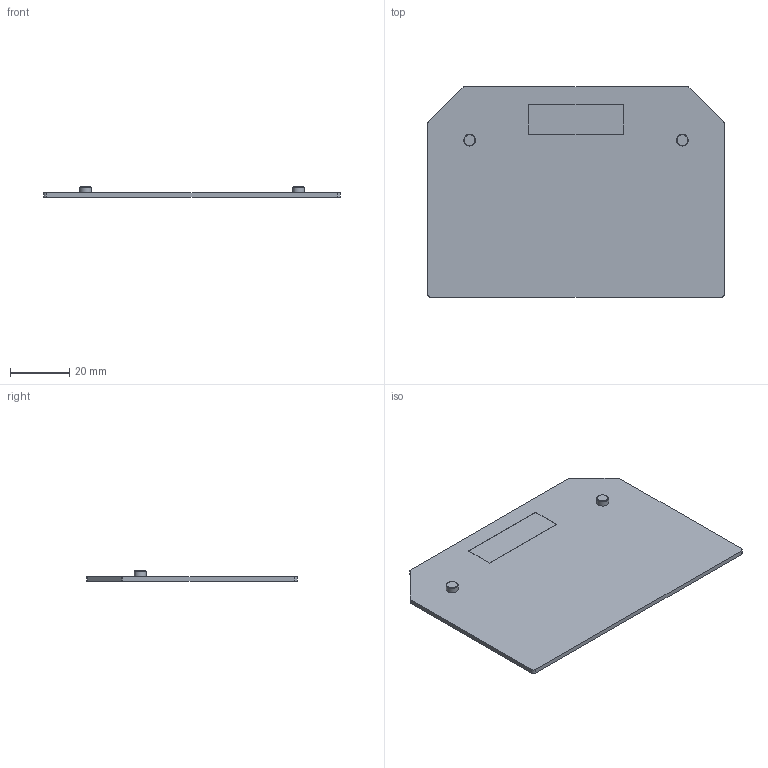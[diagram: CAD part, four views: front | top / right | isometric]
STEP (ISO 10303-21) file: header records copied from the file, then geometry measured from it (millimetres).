
FILE_DESCRIPTION(('Open CASCADE Model'),'2;1');
FILE_NAME('Open CASCADE Shape Model','2023-04-24T09:24:41',('Author'),( 'Open CASCADE'),'Open CASCADE STEP processor 6.5','Open CASCADE 6.5' ,'Unknown');
FILE_SCHEMA(('AUTOMOTIVE_DESIGN { 1 0 10303 214 1 1 1 1 }'));
Length unit declared in the file: millimetre
Products named in the file (26): CADSOFTTOOLS 1; CADSOFTTOOLS 1.1; CADSOFTTOOLS 1.2; CADSOFTTOOLS 1.3; CADSOFTTOOLS 1.4; CADSOFTTOOLS 1.5; CADSOFTTOOLS 1.6; CADSOFTTOOLS 1.7; CADSOFTTOOLS 1.8; CADSOFTTOOLS 1.9; CADSOFTTOOLS 1.10; CADSOFTTOOLS 1.11; CADSOFTTOOLS 1.12; CADSOFTTOOLS 1.13; CADSOFTTOOLS 1.14; CADSOFTTOOLS 1.15; CADSOFTTOOLS 1.16; CADSOFTTOOLS 1.17; CADSOFTTOOLS 1.18; CADSOFTTOOLS 1.19; CADSOFTTOOLS 1.20; CADSOFTTOOLS 1.21; CADSOFTTOOLS 1.22; CADSOFTTOOLS 1.23; CADSOFTTOOLS 1.24; CADSOFTTOOLS 1.25
Assembly tree (25 placements, depth 2):
  CADSOFTTOOLS 1
    CADSOFTTOOLS 1.1
    CADSOFTTOOLS 1.2
    CADSOFTTOOLS 1.3
    CADSOFTTOOLS 1.4
    CADSOFTTOOLS 1.5
    CADSOFTTOOLS 1.6
    CADSOFTTOOLS 1.7
    CADSOFTTOOLS 1.8
    CADSOFTTOOLS 1.9
    CADSOFTTOOLS 1.10
    CADSOFTTOOLS 1.11
    CADSOFTTOOLS 1.12
    CADSOFTTOOLS 1.13
    CADSOFTTOOLS 1.14
    CADSOFTTOOLS 1.15
    CADSOFTTOOLS 1.16
    CADSOFTTOOLS 1.17
    CADSOFTTOOLS 1.18
    CADSOFTTOOLS 1.19
    CADSOFTTOOLS 1.20
    CADSOFTTOOLS 1.21
    CADSOFTTOOLS 1.22
    CADSOFTTOOLS 1.23
    CADSOFTTOOLS 1.24
    CADSOFTTOOLS 1.25
Bounding box: 100 x 71 x 3.5 mm (x, y, z)
Surface area: 14457.3 mm2 (no closed solid volume)
Topology: 0 solids, 25 shells, 25 faces, 114 edges, 110 vertices
Faces by surface type: plane 15, cylinder 8, cone 2
Full cylindrical faces by diameter (mm): 4 x2
Entity records: 2554 total; most frequent: CARTESIAN_POINT 540, DIRECTION 332, LINE 140, VECTOR 140, ORIENTED_EDGE 118, PCURVE 118, DEFINITIONAL_REPRESENTATION 118, EDGE_CURVE 114
